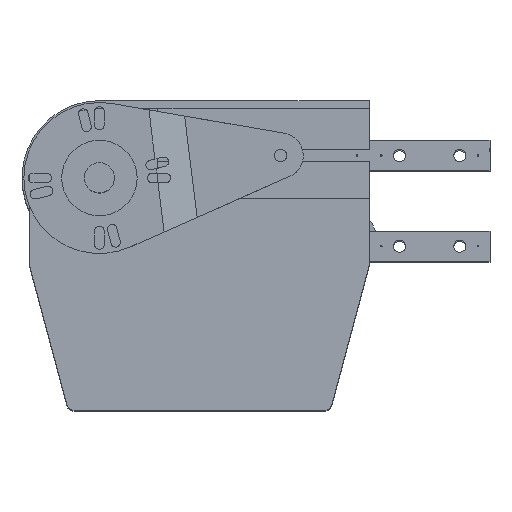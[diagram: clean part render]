
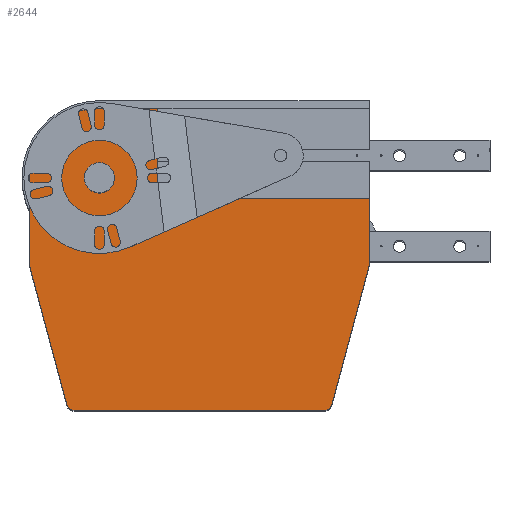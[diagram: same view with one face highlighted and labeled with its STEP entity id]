
A CAD part, top view. The second image highlights one B-rep face of the part: STEP entity #2644.
In plain terms, the highlighted planar face has unit normal (0, 0, 1).
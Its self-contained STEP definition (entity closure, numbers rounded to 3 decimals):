
#104 = EDGE_CURVE ( 'NONE', #2914, #7130, #6876, .T. ) ;
#112 = DIRECTION ( 'NONE',  ( 0., 0., 1. ) ) ;
#286 = CARTESIAN_POINT ( 'NONE',  ( 200.44, -205., 234. ) ) ;
#303 = LINE ( 'NONE', #6433, #2836 ) ;
#447 = CARTESIAN_POINT ( 'NONE',  ( 51.3, -5., 234. ) ) ;
#464 = CARTESIAN_POINT ( 'NONE',  ( 205.27, -201.294, 234. ) ) ;
#497 = DIRECTION ( 'NONE',  ( 0., 0., 1. ) ) ;
#593 = EDGE_CURVE ( 'NONE', #782, #2914, #303, .T. ) ;
#782 = VERTEX_POINT ( 'NONE', #1257 ) ;
#914 = LINE ( 'NONE', #1335, #7986 ) ;
#922 = DIRECTION ( 'NONE',  ( -1., 0., 0. ) ) ;
#931 = LINE ( 'NONE', #7682, #6751 ) ;
#1027 = CARTESIAN_POINT ( 'NONE',  ( 34.56, -200., 234. ) ) ;
#1257 = CARTESIAN_POINT ( 'NONE',  ( 5., -51.3, 234. ) ) ;
#1335 = CARTESIAN_POINT ( 'NONE',  ( 5.17, -109.636, 234. ) ) ;
#1415 = VERTEX_POINT ( 'NONE', #2374 ) ;
#1423 = ORIENTED_EDGE ( 'NONE', *, *, #7821, .T. ) ;
#1482 = DIRECTION ( 'NONE',  ( 0., 0., -1. ) ) ;
#1485 = CARTESIAN_POINT ( 'NONE',  ( 200.44, -200., 234. ) ) ;
#1489 = ORIENTED_EDGE ( 'NONE', *, *, #3484, .T. ) ;
#1533 = EDGE_CURVE ( 'NONE', #6604, #782, #1968, .T. ) ;
#1705 = DIRECTION ( 'NONE',  ( -1., 0., 0. ) ) ;
#1746 = DIRECTION ( 'NONE',  ( 0., 0., -1. ) ) ;
#1923 = VERTEX_POINT ( 'NONE', #286 ) ;
#1931 = CARTESIAN_POINT ( 'NONE',  ( 29.73, -201.294, 234. ) ) ;
#1968 = CIRCLE ( 'NONE', #3249, 46.3 ) ;
#2012 = VERTEX_POINT ( 'NONE', #464 ) ;
#2022 = DIRECTION ( 'NONE',  ( -1., 0., 0. ) ) ;
#2031 = DIRECTION ( 'NONE',  ( -1., 0., 0. ) ) ;
#2079 = ORIENTED_EDGE ( 'NONE', *, *, #3437, .T. ) ;
#2207 = CARTESIAN_POINT ( 'NONE',  ( 5.17, -109.636, 234. ) ) ;
#2374 = CARTESIAN_POINT ( 'NONE',  ( 90., -5., 234. ) ) ;
#2390 = EDGE_LOOP ( 'NONE', ( #2995, #3616, #7619, #6439, #6029, #6214, #7104, #4425, #1489, #2079, #5694, #1423 ) ) ;
#2548 = EDGE_CURVE ( 'NONE', #7130, #3838, #914, .T. ) ;
#2617 = VECTOR ( 'NONE', #6753, 1000. ) ;
#2636 = VECTOR ( 'NONE', #7109, 1000. ) ;
#2644 = ADVANCED_FACE ( 'NONE', ( #7679, #5091 ), #6428, .F. ) ;
#2805 = AXIS2_PLACEMENT_3D ( 'NONE', #3624, #497, #6188 ) ;
#2836 = VECTOR ( 'NONE', #7063, 1000. ) ;
#2914 = VERTEX_POINT ( 'NONE', #2934 ) ;
#2934 = CARTESIAN_POINT ( 'NONE',  ( 5., -108.342, 234. ) ) ;
#2995 = ORIENTED_EDGE ( 'NONE', *, *, #6709, .T. ) ;
#3242 = DIRECTION ( 'NONE',  ( 0.259, -0.966, 0. ) ) ;
#3249 = AXIS2_PLACEMENT_3D ( 'NONE', #7562, #112, #2022 ) ;
#3419 = CIRCLE ( 'NONE', #4017, 5. ) ;
#3422 = AXIS2_PLACEMENT_3D ( 'NONE', #5878, #7026, #7676 ) ;
#3437 = EDGE_CURVE ( 'NONE', #2012, #6351, #6907, .T. ) ;
#3484 = EDGE_CURVE ( 'NONE', #1923, #2012, #3419, .T. ) ;
#3571 = AXIS2_PLACEMENT_3D ( 'NONE', #7888, #1746, #7313 ) ;
#3603 = EDGE_CURVE ( 'NONE', #3838, #5187, #6902, .T. ) ;
#3616 = ORIENTED_EDGE ( 'NONE', *, *, #4637, .T. ) ;
#3624 = CARTESIAN_POINT ( 'NONE',  ( 10., -108.342, 234. ) ) ;
#3654 = VERTEX_POINT ( 'NONE', #4800 ) ;
#3702 = LINE ( 'NONE', #7343, #2617 ) ;
#3790 = CARTESIAN_POINT ( 'NONE',  ( 51.3, -5., 234. ) ) ;
#3838 = VERTEX_POINT ( 'NONE', #1931 ) ;
#3846 = VERTEX_POINT ( 'NONE', #6201 ) ;
#3870 = AXIS2_PLACEMENT_3D ( 'NONE', #5213, #1482, #2031 ) ;
#3871 = CARTESIAN_POINT ( 'NONE',  ( 61.3, -51.3, 234. ) ) ;
#3951 = VERTEX_POINT ( 'NONE', #3871 ) ;
#3963 = VECTOR ( 'NONE', #4140, 1000. ) ;
#3986 = CARTESIAN_POINT ( 'NONE',  ( 230., -109., 234. ) ) ;
#4010 = DIRECTION ( 'NONE',  ( 0., 0., 1. ) ) ;
#4017 = AXIS2_PLACEMENT_3D ( 'NONE', #1485, #4010, #922 ) ;
#4140 = DIRECTION ( 'NONE',  ( 0., 1., 0. ) ) ;
#4387 = EDGE_CURVE ( 'NONE', #3951, #3654, #7456, .T. ) ;
#4424 = ORIENTED_EDGE ( 'NONE', *, *, #4387, .T. ) ;
#4425 = ORIENTED_EDGE ( 'NONE', *, *, #7052, .T. ) ;
#4514 = DIRECTION ( 'NONE',  ( 1., 0., 0. ) ) ;
#4637 = EDGE_CURVE ( 'NONE', #1415, #6604, #7020, .T. ) ;
#4800 = CARTESIAN_POINT ( 'NONE',  ( 41.3, -51.3, 234. ) ) ;
#4845 = CIRCLE ( 'NONE', #3422, 10. ) ;
#5016 = DIRECTION ( 'NONE',  ( -1., 0., 0. ) ) ;
#5041 = LINE ( 'NONE', #5369, #3963 ) ;
#5091 = FACE_OUTER_BOUND ( 'NONE', #2390, .T. ) ;
#5133 = AXIS2_PLACEMENT_3D ( 'NONE', #1027, #6634, #1705 ) ;
#5187 = VERTEX_POINT ( 'NONE', #6707 ) ;
#5213 = CARTESIAN_POINT ( 'NONE',  ( 200.44, -200., 234. ) ) ;
#5369 = CARTESIAN_POINT ( 'NONE',  ( 90., -46.4, 234. ) ) ;
#5409 = DIRECTION ( 'NONE',  ( -1., 0., 0. ) ) ;
#5430 = EDGE_CURVE ( 'NONE', #6351, #7014, #3702, .T. ) ;
#5512 = EDGE_LOOP ( 'NONE', ( #4424, #6152 ) ) ;
#5694 = ORIENTED_EDGE ( 'NONE', *, *, #5430, .T. ) ;
#5764 = CARTESIAN_POINT ( 'NONE',  ( 34.56, -205., 234. ) ) ;
#5878 = CARTESIAN_POINT ( 'NONE',  ( 51.3, -51.3, 234. ) ) ;
#6029 = ORIENTED_EDGE ( 'NONE', *, *, #104, .T. ) ;
#6077 = VECTOR ( 'NONE', #4514, 1000. ) ;
#6152 = ORIENTED_EDGE ( 'NONE', *, *, #6528, .T. ) ;
#6163 = VECTOR ( 'NONE', #5016, 1000. ) ;
#6184 = LINE ( 'NONE', #5764, #6077 ) ;
#6188 = DIRECTION ( 'NONE',  ( -1., 0., 0. ) ) ;
#6201 = CARTESIAN_POINT ( 'NONE',  ( 90., -65., 234. ) ) ;
#6214 = ORIENTED_EDGE ( 'NONE', *, *, #2548, .T. ) ;
#6351 = VERTEX_POINT ( 'NONE', #7522 ) ;
#6428 = PLANE ( 'NONE',  #3870 ) ;
#6433 = CARTESIAN_POINT ( 'NONE',  ( 5., -51.3, 234. ) ) ;
#6439 = ORIENTED_EDGE ( 'NONE', *, *, #593, .T. ) ;
#6528 = EDGE_CURVE ( 'NONE', #3654, #3951, #4845, .T. ) ;
#6604 = VERTEX_POINT ( 'NONE', #447 ) ;
#6634 = DIRECTION ( 'NONE',  ( 0., 0., 1. ) ) ;
#6707 = CARTESIAN_POINT ( 'NONE',  ( 34.56, -205., 234. ) ) ;
#6709 = EDGE_CURVE ( 'NONE', #3846, #1415, #5041, .T. ) ;
#6751 = VECTOR ( 'NONE', #5409, 1000. ) ;
#6753 = DIRECTION ( 'NONE',  ( 0., 1., 0. ) ) ;
#6876 = CIRCLE ( 'NONE', #2805, 5. ) ;
#6902 = CIRCLE ( 'NONE', #5133, 5. ) ;
#6907 = LINE ( 'NONE', #3986, #2636 ) ;
#7014 = VERTEX_POINT ( 'NONE', #7583 ) ;
#7020 = LINE ( 'NONE', #3790, #6163 ) ;
#7026 = DIRECTION ( 'NONE',  ( 0., 0., -1. ) ) ;
#7052 = EDGE_CURVE ( 'NONE', #5187, #1923, #6184, .T. ) ;
#7063 = DIRECTION ( 'NONE',  ( 0., -1., 0. ) ) ;
#7104 = ORIENTED_EDGE ( 'NONE', *, *, #3603, .T. ) ;
#7109 = DIRECTION ( 'NONE',  ( 0.259, 0.966, 0. ) ) ;
#7130 = VERTEX_POINT ( 'NONE', #2207 ) ;
#7313 = DIRECTION ( 'NONE',  ( -1., 0., 0. ) ) ;
#7343 = CARTESIAN_POINT ( 'NONE',  ( 230., -106.4, 234. ) ) ;
#7456 = CIRCLE ( 'NONE', #3571, 10. ) ;
#7522 = CARTESIAN_POINT ( 'NONE',  ( 230., -109., 234. ) ) ;
#7562 = CARTESIAN_POINT ( 'NONE',  ( 51.3, -51.3, 234. ) ) ;
#7583 = CARTESIAN_POINT ( 'NONE',  ( 230., -65., 234. ) ) ;
#7619 = ORIENTED_EDGE ( 'NONE', *, *, #1533, .T. ) ;
#7676 = DIRECTION ( 'NONE',  ( -1., 0., 0. ) ) ;
#7679 = FACE_BOUND ( 'NONE', #5512, .T. ) ;
#7682 = CARTESIAN_POINT ( 'NONE',  ( 230., -65., 234. ) ) ;
#7821 = EDGE_CURVE ( 'NONE', #7014, #3846, #931, .T. ) ;
#7888 = CARTESIAN_POINT ( 'NONE',  ( 51.3, -51.3, 234. ) ) ;
#7986 = VECTOR ( 'NONE', #3242, 1000. ) ;
